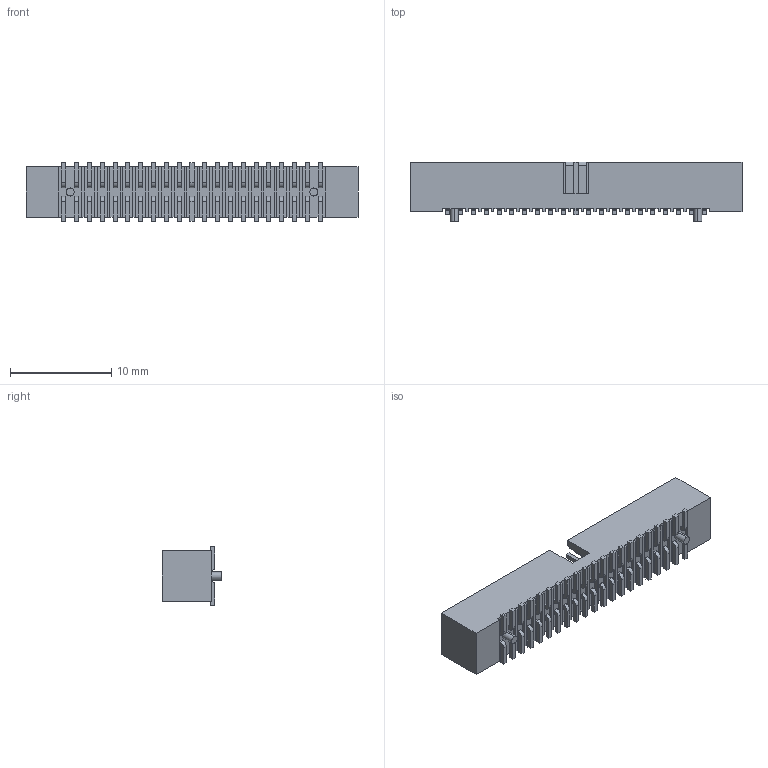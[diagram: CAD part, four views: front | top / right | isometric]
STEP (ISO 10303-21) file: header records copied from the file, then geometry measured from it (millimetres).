
FILE_DESCRIPTION (( 'STEP AP214' ), '1' );
FILE_NAME ('HC-JN127-2-21-S-4.9-XX (潠籟1.27 邧齬 泂え-HCTL).STEP', '2024-12-17T00:50:36', ( '' ), ( '' ), 'SwSTEP 2.0', 'SolidWorks 2022', '' );
FILE_SCHEMA (( 'AUTOMOTIVE_DESIGN' ));
Length unit declared in the file: millimetre
Products named in the file (1): HC-JN127-2-21-S-4.9-XX (潠籟1.27 邧齬 泂え-HCTL)
Bounding box: 32.87 x 5.9 x 5.8 mm (x, y, z)
Volume: 474.4 mm3; surface area: 1321.6 mm2
Topology: 1 solids, 1 shells, 689 faces, 1803 edges, 1202 vertices
Faces by surface type: plane 601, cylinder 88
Entity records: 22038 total; most frequent: CARTESIAN_POINT 3695, ORIENTED_EDGE 3606, DIRECTION 3359, EDGE_CURVE 1803, LINE 1627, VECTOR 1627, VERTEX_POINT 1202, AXIS2_PLACEMENT_3D 866
